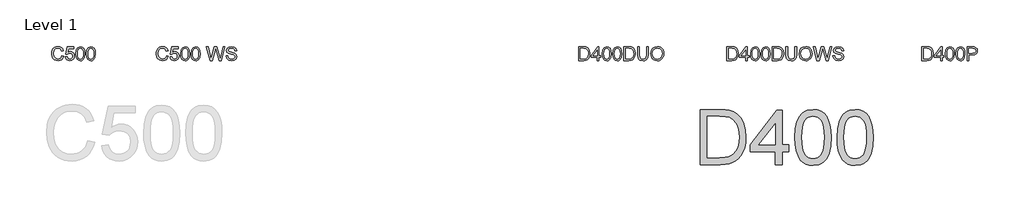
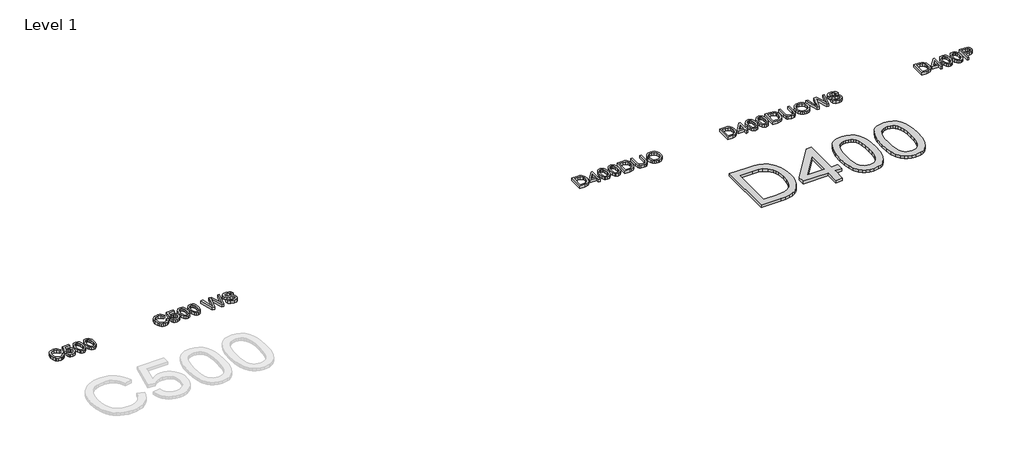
# One storey, part 5 of 5: 6 proxies.
"""IFC4 building model written with IfcOpenShell, lengths in millimetres."""

from ifc_helpers import new_model, si_unit, origin, origin_with_axes, place, context, project, spatial, polyline, outline, extrude, element, save

model = new_model("IFC4")

# Units and contexts
model_context = context("Model", 3, world=origin())
ifc_project = project(units=[si_unit("LENGTHUNIT", "METRE", prefix="MILLI")], contexts=[model_context])

# Site, building, storey
site = spatial("IfcSite", under=ifc_project)
building = spatial("IfcBuilding", under=site)
storey = spatial("IfcBuildingStorey", under=building, Name="Level 1", Elevation=0.0)

# Proxies
placement = place(None, origin())
element("IfcBuildingElementProxy", 1, Name="100mm Arial", ObjectType="100mm Arial", at=placement, inside=storey, context=model_context, shape_type="SweptSolid", body=[
    extrude(outline(polyline([(806.5429704, -3882.5422782), (819.1000091, -3885.7796398), (813.3058677, -3900.4121461), (804.2130511, -3911.1021838), (792.269149, -3917.6412862), (777.9217511, -3919.820987), (763.3566898, -3918.1716494), (751.7898668, -3913.2236366), (742.9239107, -3905.1486268), (736.4614503, -3894.1182983), (731.2007378, -3867.2629127), (732.6875942, -3852.6150779), (737.1481633, -3839.9660686), (744.3494534, -3829.7174894), (754.0584724, -3822.2709446), (765.5731788, -3817.7367991), (778.1915313, -3816.2254172), (791.9595149, -3818.1813231), (803.342397, -3824.049041), (811.9845582, -3833.46682), (817.5303793, -3846.0729097), (804.9733405, -3849.0650166), (794.6726447, -3833.6262356), (777.7010219, -3828.782456), (758.0561234, -3834.1535331), (746.9583499, -3848.5745073), (743.7577765, -3867.2383872), (747.5469611, -3888.8698485), (759.3437104, -3902.6899488), (776.6709524, -3907.2639483), (787.1525235, -3905.7065812), (795.8866552, -3901.0344798), (802.48094, -3893.2966952), (806.5429704, -3882.5422782)])), origin_with_axes(), (0.0, 0.0, 1.0), 20.0),
    extrude(outline(polyline([(831.6570479, -3891.5676498), (844.2140867, -3889.99802), (850.541657, -3902.9352035), (863.6627815, -3907.2639483), (872.6636276, -3905.7586978), (879.4081309, -3901.2429463), (883.6203797, -3894.23786), (885.0244627, -3885.264605), (879.7637501, -3870.3531214), (873.1572026, -3866.2512372), (863.8589852, -3864.8839424), (852.8347881, -3867.0667089), (845.7837165, -3872.7320917), (833.2266777, -3871.1624618), (844.2140867, -3819.3646769), (892.8726119, -3819.3646769), (892.8726119, -3831.9217157), (854.3676297, -3831.9217157), (848.9965526, -3859.5864417), (857.9667419, -3854.1417882), (867.3661269, -3852.3269037), (879.0984969, -3854.5771152), (888.8381727, -3861.3277498), (895.3956693, -3871.6161829), (897.5815014, -3884.47979), (895.6133328, -3897.0368288), (889.7088267, -3907.7789831), (878.4025868, -3916.810486), (863.6137306, -3919.820987), (851.2804867, -3917.8865409), (841.4549717, -3912.0832024), (834.7196655, -3903.0854219), (831.6570479, -3891.5676498)])), origin_with_axes(), (0.0, 0.0, 1.0), 20.0),
    extrude(outline(polyline([(908.5689104, -3868.8325425), (912.259993, -3839.9292804), (923.2228765, -3823.264226), (941.5311371, -3817.795047), (956.197366, -3821.0324086), (966.3263836, -3830.3643485), (972.2124955, -3845.2267811), (974.4933639, -3868.8325425), (970.8390694, -3897.6131773), (959.9129742, -3914.3150198), (951.6816145, -3918.4444952), (941.5311371, -3919.820987), (928.483589, -3917.4297541), (918.5753006, -3910.2560552), (911.0705079, -3893.2660384), (908.5689104, -3868.8325425)]), holes=[polyline([(921.1259491, -3868.808017), (922.5974771, -3888.5602145), (927.0120611, -3899.9921475), (933.584886, -3905.4459981), (941.5311371, -3907.2639483), (949.4773882, -3905.4398667), (956.0502132, -3899.967622), (960.4647971, -3888.5295577), (961.9363251, -3868.808017), (960.5138481, -3849.5003437), (956.2464169, -3837.9795058), (949.6858547, -3832.2589408), (941.3839843, -3830.3520858), (933.5235724, -3832.0320803), (927.2082648, -3837.0720636), (922.646528, -3849.3102713), (921.1259491, -3868.808017)])]), origin_with_axes(), (0.0, 0.0, 1.0), 20.0),
    extrude(outline(polyline([(985.4807728, -3868.8325425), (989.1718555, -3839.9292804), (1000.134739, -3823.264226), (1018.4429996, -3817.795047), (1033.1092285, -3821.0324086), (1043.2382461, -3830.3643485), (1049.124358, -3845.2267811), (1051.4052264, -3868.8325425), (1047.7509319, -3897.6131773), (1036.8248366, -3914.3150198), (1028.593477, -3918.4444952), (1018.4429996, -3919.820987), (1005.3954515, -3917.4297541), (995.4871631, -3910.2560552), (987.9823704, -3893.2660384), (985.4807728, -3868.8325425)]), holes=[polyline([(998.0378116, -3868.808017), (999.5093396, -3888.5602145), (1003.9239235, -3899.9921475), (1010.4967485, -3905.4459981), (1018.4429996, -3907.2639483), (1026.3892507, -3905.4398667), (1032.9620757, -3899.967622), (1037.3766596, -3888.5295577), (1038.8481876, -3868.808017), (1037.4257105, -3849.5003437), (1033.1582794, -3837.9795058), (1026.5977171, -3832.2589408), (1018.2958468, -3830.3520858), (1010.4354348, -3832.0320803), (1004.1201272, -3837.0720636), (999.5583905, -3849.3102713), (998.0378116, -3868.808017)])]), origin_with_axes(), (0.0, 0.0, 1.0), 20.0),
])
element("IfcBuildingElementProxy", 2, Name="100mm Arial", ObjectType="100mm Arial", at=placement, inside=storey, context=model_context, shape_type="SweptSolid", body=[
    extrude(outline(polyline([(4581.3010875, -3918.2513572), (4581.3010875, -3817.795047), (4615.9555714, -3817.795047), (4633.8836873, -3819.2420496), (4648.648018, -3826.4280112), (4660.5428692, -3843.5958376), (4664.4914693, -3867.4836419), (4661.8181935, -3887.7539398), (4654.9510629, -3902.3833805), (4645.7785385, -3911.4945912), (4633.7733227, -3916.5345745), (4617.6233031, -3918.2513572), (4581.3010875, -3918.2513572)]), holes=[polyline([(4593.8581262, -3905.6943184), (4616.0781987, -3905.6943184), (4632.2404811, -3903.8794339), (4641.5601583, -3898.7536114), (4649.199841, -3886.2824118), (4651.9344305, -3867.2874381), (4650.5947269, -3853.6022279), (4646.5756161, -3843.4977358), (4633.5403308, -3832.3631741), (4615.7348422, -3830.3520858), (4593.8581262, -3830.3520858), (4593.8581262, -3905.6943184)])]), origin_with_axes(), (0.0, 0.0, 1.0), 20.0),
    extrude(outline(polyline([(4717.8588841, -3918.2513572), (4717.8588841, -3894.7069095), (4672.3396185, -3894.7069095), (4672.3396185, -3882.1498707), (4720.9981438, -3819.3646769), (4730.4159228, -3819.3646769), (4730.4159228, -3882.1498707), (4742.9729616, -3882.1498707), (4742.9729616, -3894.7069095), (4730.4159228, -3894.7069095), (4730.4159228, -3918.2513572), (4717.8588841, -3918.2513572)]), holes=[polyline([(4717.8588841, -3882.1498707), (4717.8588841, -3843.350583), (4687.7906623, -3882.1498707), (4717.8588841, -3882.1498707)])]), origin_with_axes(), (0.0, 0.0, 1.0), 20.0),
    extrude(outline(polyline([(4753.9603705, -3868.8325425), (4757.6514532, -3839.9292804), (4768.6143367, -3823.264226), (4786.9225973, -3817.795047), (4801.5888262, -3821.0324086), (4811.7178438, -3830.3643485), (4817.6039557, -3845.2267811), (4819.8848241, -3868.8325425), (4816.2305296, -3897.6131773), (4805.3044343, -3914.3150198), (4797.0730747, -3918.4444952), (4786.9225973, -3919.820987), (4773.8750492, -3917.4297541), (4763.9667608, -3910.2560552), (4756.4619681, -3893.2660384), (4753.9603705, -3868.8325425)]), holes=[polyline([(4766.5174093, -3868.808017), (4767.9889373, -3888.5602145), (4772.4035212, -3899.9921475), (4778.9763462, -3905.4459981), (4786.9225973, -3907.2639483), (4794.8688484, -3905.4398667), (4801.4416734, -3899.967622), (4805.8562573, -3888.5295577), (4807.3277853, -3868.808017), (4805.9053082, -3849.5003437), (4801.6378771, -3837.9795058), (4795.0773149, -3832.2589408), (4786.7754445, -3830.3520858), (4778.9150325, -3832.0320803), (4772.5997249, -3837.0720636), (4768.0379882, -3849.3102713), (4766.5174093, -3868.808017)])]), origin_with_axes(), (0.0, 0.0, 1.0), 20.0),
    extrude(outline(polyline([(4830.872233, -3868.8325425), (4834.5633157, -3839.9292804), (4845.5261991, -3823.264226), (4863.8344597, -3817.795047), (4878.5006886, -3821.0324086), (4888.6297062, -3830.3643485), (4894.5158181, -3845.2267811), (4896.7966865, -3868.8325425), (4893.142392, -3897.6131773), (4882.2162968, -3914.3150198), (4873.9849371, -3918.4444952), (4863.8344597, -3919.820987), (4850.7869117, -3917.4297541), (4840.8786232, -3910.2560552), (4833.3738305, -3893.2660384), (4830.872233, -3868.8325425)]), holes=[polyline([(4843.4292717, -3868.808017), (4844.9007997, -3888.5602145), (4849.3153837, -3899.9921475), (4855.8882087, -3905.4459981), (4863.8344597, -3907.2639483), (4871.7807108, -3905.4398667), (4878.3535358, -3899.967622), (4882.7681198, -3888.5295577), (4884.2396477, -3868.808017), (4882.8171707, -3849.5003437), (4878.5497396, -3837.9795058), (4871.9891773, -3832.2589408), (4863.687307, -3830.3520858), (4855.826895, -3832.0320803), (4849.5115874, -3837.0720636), (4844.9498507, -3849.3102713), (4843.4292717, -3868.808017)])]), origin_with_axes(), (0.0, 0.0, 1.0), 20.0),
    extrude(outline(polyline([(4912.492985, -3918.2513572), (4912.492985, -3817.795047), (4947.1474689, -3817.795047), (4965.0755848, -3819.2420496), (4979.8399156, -3826.4280112), (4991.7347667, -3843.5958376), (4995.6833668, -3867.4836419), (4993.010091, -3887.7539398), (4986.1429604, -3902.3833805), (4976.970436, -3911.4945912), (4964.9652202, -3916.5345745), (4948.8152006, -3918.2513572), (4912.492985, -3918.2513572)]), holes=[polyline([(4925.0500237, -3905.6943184), (4947.2700963, -3905.6943184), (4963.4323786, -3903.8794339), (4972.7520558, -3898.7536114), (4980.3917386, -3886.2824118), (4983.1263281, -3867.2874381), (4981.7866245, -3853.6022279), (4977.7675137, -3843.4977358), (4964.7322283, -3832.3631741), (4946.9267397, -3830.3520858), (4925.0500237, -3830.3520858), (4925.0500237, -3905.6943184)])]), origin_with_axes(), (0.0, 0.0, 1.0), 20.0),
    extrude(outline(polyline([(5078.8737487, -3817.795047), (5091.4307874, -3817.795047), (5091.4307874, -3875.748724), (5088.0217476, -3899.7714183), (5075.734489, -3914.2414434), (5065.4705813, -3918.4261011), (5052.4352959, -3919.820987), (5029.4917222, -3914.9649447), (5021.8520394, -3909.0205848), (5016.7630051, -3900.8995898), (5012.9492951, -3875.748724), (5012.9492951, -3817.795047), (5025.5063339, -3817.795047), (5025.5063339, -3875.3072656), (5027.983406, -3894.4493921), (5036.4937428, -3903.9284848), (5051.2580736, -3907.2639483), (5064.0297102, -3905.6146107), (5072.5216529, -3900.6665978), (5077.2857247, -3891.0280895), (5078.8737487, -3875.3072656), (5078.8737487, -3817.795047)])), origin_with_axes(), (0.0, 0.0, 1.0), 20.0),
    extrude(outline(polyline([(5108.6967157, -3869.3475773), (5112.0444419, -3847.1336362), (5122.0876204, -3830.3275603), (5137.4221682, -3819.750953), (5156.6440024, -3816.2254172), (5169.8203092, -3817.8808862), (5181.6354526, -3822.8472931), (5191.4456392, -3830.7751501), (5198.6070754, -3841.3149693), (5202.9848711, -3853.9578472), (5204.4441363, -3868.1948804), (5202.908229, -3882.621986), (5198.300507, -3895.4426735), (5190.8754221, -3906.0008868), (5180.8874259, -3913.6405695), (5169.1734501, -3918.2758827), (5156.570426, -3919.820987), (5143.1917842, -3918.1134014), (5131.3091957, -3912.9906447), (5121.5235346, -3904.9156349), (5114.4356749, -3894.3512902), (5108.6967157, -3869.3475773)]), holes=[polyline([(5121.2537545, -3869.4702046), (5123.7645491, -3885.1848972), (5131.296933, -3897.1594561), (5142.6185014, -3904.7378252), (5156.4968496, -3907.2639483), (5170.577533, -3904.7132998), (5181.9174955, -3897.0613543), (5189.3946971, -3884.7189133), (5191.8870976, -3868.0967785), (5187.6196664, -3847.3727595), (5175.1484668, -3833.650761), (5156.7175788, -3828.782456), (5143.2101783, -3831.1277037), (5131.7261286, -3838.1634468), (5123.871848, -3850.6806317), (5121.2537545, -3869.4702046)])]), origin_with_axes(), (0.0, 0.0, 1.0), 20.0),
])
element("IfcBuildingElementProxy", 3, Name="100mm Arial", ObjectType="100mm Arial", at=placement, inside=storey, context=model_context, shape_type="SweptSolid", body=[
    extrude(outline(polyline([(5665.1484788, -3918.2513572), (5665.1484788, -3817.795047), (5699.8029628, -3817.795047), (5717.7310787, -3819.2420496), (5732.4954094, -3826.4280112), (5744.3902606, -3843.5958376), (5748.3388607, -3867.4836419), (5745.6655849, -3887.7539398), (5738.7984543, -3902.3833805), (5729.6259299, -3911.4945912), (5717.6207141, -3916.5345745), (5701.4706945, -3918.2513572), (5665.1484788, -3918.2513572)]), holes=[polyline([(5677.7055176, -3905.6943184), (5699.9255901, -3905.6943184), (5716.0878724, -3903.8794339), (5725.4075497, -3898.7536114), (5733.0472324, -3886.2824118), (5735.7818219, -3867.2874381), (5734.4421183, -3853.6022279), (5730.4230075, -3843.4977358), (5717.3877222, -3832.3631741), (5699.5822336, -3830.3520858), (5677.7055176, -3830.3520858), (5677.7055176, -3905.6943184)])]), origin_with_axes(), (0.0, 0.0, 1.0), 20.0),
    extrude(outline(polyline([(5801.7062755, -3918.2513572), (5801.7062755, -3894.7069095), (5756.1870099, -3894.7069095), (5756.1870099, -3882.1498707), (5804.8455351, -3819.3646769), (5814.2633142, -3819.3646769), (5814.2633142, -3882.1498707), (5826.820353, -3882.1498707), (5826.820353, -3894.7069095), (5814.2633142, -3894.7069095), (5814.2633142, -3918.2513572), (5801.7062755, -3918.2513572)]), holes=[polyline([(5801.7062755, -3882.1498707), (5801.7062755, -3843.350583), (5771.6380537, -3882.1498707), (5801.7062755, -3882.1498707)])]), origin_with_axes(), (0.0, 0.0, 1.0), 20.0),
    extrude(outline(polyline([(5837.8077619, -3868.8325425), (5841.4988446, -3839.9292804), (5852.4617281, -3823.264226), (5870.7699887, -3817.795047), (5885.4362176, -3821.0324086), (5895.5652352, -3830.3643485), (5901.4513471, -3845.2267811), (5903.7322154, -3868.8325425), (5900.077921, -3897.6131773), (5889.1518257, -3914.3150198), (5880.9204661, -3918.4444952), (5870.7699887, -3919.820987), (5857.7224406, -3917.4297541), (5847.8141522, -3910.2560552), (5840.3093595, -3893.2660384), (5837.8077619, -3868.8325425)]), holes=[polyline([(5850.3648007, -3868.808017), (5851.8363287, -3888.5602145), (5856.2509126, -3899.9921475), (5862.8237376, -3905.4459981), (5870.7699887, -3907.2639483), (5878.7162398, -3905.4398667), (5885.2890648, -3899.967622), (5889.7036487, -3888.5295577), (5891.1751767, -3868.808017), (5889.7526996, -3849.5003437), (5885.4852685, -3837.9795058), (5878.9247062, -3832.2589408), (5870.6228359, -3830.3520858), (5862.7624239, -3832.0320803), (5856.4471163, -3837.0720636), (5851.8853796, -3849.3102713), (5850.3648007, -3868.808017)])]), origin_with_axes(), (0.0, 0.0, 1.0), 20.0),
    extrude(outline(polyline([(5914.7196244, -3868.8325425), (5918.4107071, -3839.9292804), (5929.3735905, -3823.264226), (5947.6818511, -3817.795047), (5962.34808, -3821.0324086), (5972.4770976, -3830.3643485), (5978.3632095, -3845.2267811), (5980.6440779, -3868.8325425), (5976.9897834, -3897.6131773), (5966.0636882, -3914.3150198), (5957.8323285, -3918.4444952), (5947.6818511, -3919.820987), (5934.634303, -3917.4297541), (5924.7260146, -3910.2560552), (5917.2212219, -3893.2660384), (5914.7196244, -3868.8325425)]), holes=[polyline([(5927.2766631, -3868.808017), (5928.7481911, -3888.5602145), (5933.1627751, -3899.9921475), (5939.7356, -3905.4459981), (5947.6818511, -3907.2639483), (5955.6281022, -3905.4398667), (5962.2009272, -3899.967622), (5966.6155112, -3888.5295577), (5968.0870391, -3868.808017), (5966.6645621, -3849.5003437), (5962.3971309, -3837.9795058), (5955.8365687, -3832.2589408), (5947.5346983, -3830.3520858), (5939.6742864, -3832.0320803), (5933.3589788, -3837.0720636), (5928.7972421, -3849.3102713), (5927.2766631, -3868.808017)])]), origin_with_axes(), (0.0, 0.0, 1.0), 20.0),
    extrude(outline(polyline([(5996.3403764, -3918.2513572), (5996.3403764, -3817.795047), (6030.9948603, -3817.795047), (6048.9229762, -3819.2420496), (6063.687307, -3826.4280112), (6075.5821581, -3843.5958376), (6079.5307582, -3867.4836419), (6076.8574824, -3887.7539398), (6069.9903518, -3902.3833805), (6060.8178274, -3911.4945912), (6048.8126116, -3916.5345745), (6032.662592, -3918.2513572), (5996.3403764, -3918.2513572)]), holes=[polyline([(6008.8974151, -3905.6943184), (6031.1174876, -3905.6943184), (6047.27977, -3903.8794339), (6056.5994472, -3898.7536114), (6064.2391299, -3886.2824118), (6066.9737194, -3867.2874381), (6065.6340158, -3853.6022279), (6061.614905, -3843.4977358), (6048.5796197, -3832.3631741), (6030.7741311, -3830.3520858), (6008.8974151, -3830.3520858), (6008.8974151, -3905.6943184)])]), origin_with_axes(), (0.0, 0.0, 1.0), 20.0),
    extrude(outline(polyline([(6162.7211401, -3817.795047), (6175.2781788, -3817.795047), (6175.2781788, -3875.748724), (6171.869139, -3899.7714183), (6159.5818804, -3914.2414434), (6149.3179727, -3918.4261011), (6136.2826873, -3919.820987), (6113.3391136, -3914.9649447), (6105.6994308, -3909.0205848), (6100.6103965, -3900.8995898), (6096.7966865, -3875.748724), (6096.7966865, -3817.795047), (6109.3537253, -3817.795047), (6109.3537253, -3875.3072656), (6111.8307974, -3894.4493921), (6120.3411342, -3903.9284848), (6135.1054649, -3907.2639483), (6147.8771015, -3905.6146107), (6156.3690443, -3900.6665978), (6161.1331161, -3891.0280895), (6162.7211401, -3875.3072656), (6162.7211401, -3817.795047)])), origin_with_axes(), (0.0, 0.0, 1.0), 20.0),
    extrude(outline(polyline([(6192.5441071, -3869.3475773), (6195.8918333, -3847.1336362), (6205.9350118, -3830.3275603), (6221.2695596, -3819.750953), (6240.4913938, -3816.2254172), (6253.6677006, -3817.8808862), (6265.482844, -3822.8472931), (6275.2930306, -3830.7751501), (6282.4544667, -3841.3149693), (6286.8322625, -3853.9578472), (6288.2915277, -3868.1948804), (6286.7556204, -3882.621986), (6282.1478984, -3895.4426735), (6274.7228135, -3906.0008868), (6264.7348173, -3913.6405695), (6253.0208415, -3918.2758827), (6240.4178174, -3919.820987), (6227.0391755, -3918.1134014), (6215.1565871, -3912.9906447), (6205.370926, -3904.9156349), (6198.2830663, -3894.3512902), (6192.5441071, -3869.3475773)]), holes=[polyline([(6205.1011459, -3869.4702046), (6207.6119405, -3885.1848972), (6215.1443244, -3897.1594561), (6226.4658928, -3904.7378252), (6240.344241, -3907.2639483), (6254.4249244, -3904.7132998), (6265.7648869, -3897.0613543), (6273.2420885, -3884.7189133), (6275.734489, -3868.0967785), (6271.4670578, -3847.3727595), (6258.9958582, -3833.650761), (6240.5649702, -3828.782456), (6227.0575696, -3831.1277037), (6215.57352, -3838.1634468), (6207.7192394, -3850.6806317), (6205.1011459, -3869.4702046)])]), origin_with_axes(), (0.0, 0.0, 1.0), 20.0),
    extrude(outline(polyline([(6323.5346229, -3918.2513572), (6296.139677, -3817.795047), (6309.0891232, -3817.795047), (6324.9816254, -3883.8176024), (6329.8867187, -3904.198265), (6335.1351685, -3886.1720472), (6355.0498471, -3817.795047), (6373.713727, -3817.795047), (6388.1837522, -3867.3610145), (6398.9504319, -3904.198265), (6403.7083724, -3884.4062136), (6419.7480273, -3817.795047), (6432.6974736, -3817.795047), (6405.2780022, -3918.2513572), (6391.8625721, -3918.2513572), (6367.7785642, -3840.7508835), (6364.4185753, -3829.9351529), (6360.6416535, -3842.9581755), (6338.6913611, -3918.2513572), (6323.5346229, -3918.2513572)])), origin_with_axes(), (0.0, 0.0, 1.0), 20.0),
    extrude(outline(polyline([(6440.5456228, -3883.7195006), (6453.1026616, -3883.7195006), (6457.1493635, -3896.2888021), (6467.0331265, -3904.2350532), (6482.0917628, -3907.2639483), (6495.2128873, -3904.9708172), (6503.6864359, -3898.6677723), (6506.4700763, -3890.2432746), (6504.3854117, -3882.4073881), (6495.8505494, -3876.7052172), (6477.5668143, -3871.9104885), (6457.8851275, -3865.7178083), (6447.2042869, -3856.3736056), (6443.6848825, -3843.8901432), (6448.0381528, -3829.6776355), (6460.7546071, -3819.6467198), (6479.369436, -3816.2254172), (6499.2350638, -3819.8061353), (6512.4788156, -3830.3275603), (6517.4574853, -3846.0483843), (6504.9004465, -3846.0483843), (6502.5950527, -3838.5558543), (6497.7880613, -3833.147989), (6479.8599454, -3828.782456), (6461.8827785, -3833.098938), (6456.2419213, -3843.5222612), (6460.2395723, -3852.2288018), (6480.7428621, -3859.2430852), (6502.9629347, -3865.54613), (6515.1153032, -3875.7241985), (6519.0271151, -3889.9244436), (6514.526692, -3904.9462917), (6501.5772458, -3915.9091752), (6482.5822721, -3919.820987), (6460.1537332, -3915.6026068), (6445.9657509, -3902.8984153), (6440.5456228, -3883.7195006)])), origin_with_axes(), (0.0, 0.0, 1.0), 20.0),
])
element("IfcBuildingElementProxy", 4, Name="100mm Arial", ObjectType="100mm Arial", at=placement, inside=storey, context=model_context, shape_type="SweptSolid", body=[
    extrude(outline(polyline([(7089.6055468, -3918.2513572), (7089.6055468, -3817.795047), (7124.2600308, -3817.795047), (7142.1881467, -3819.2420496), (7156.9524774, -3826.4280112), (7168.8473286, -3843.5958376), (7172.7959287, -3867.4836419), (7170.1226528, -3887.7539398), (7163.2555223, -3902.3833805), (7154.0829979, -3911.4945912), (7142.0777821, -3916.5345745), (7125.9277625, -3918.2513572), (7089.6055468, -3918.2513572)]), holes=[polyline([(7102.1625856, -3905.6943184), (7124.3826581, -3905.6943184), (7140.5449404, -3903.8794339), (7149.8646176, -3898.7536114), (7157.5043004, -3886.2824118), (7160.2388899, -3867.2874381), (7158.8991863, -3853.6022279), (7154.8800755, -3843.4977358), (7141.8447901, -3832.3631741), (7124.0393016, -3830.3520858), (7102.1625856, -3830.3520858), (7102.1625856, -3905.6943184)])]), origin_with_axes(), (0.0, 0.0, 1.0), 20.0),
    extrude(outline(polyline([(7226.1633434, -3918.2513572), (7226.1633434, -3894.7069095), (7180.6440779, -3894.7069095), (7180.6440779, -3882.1498707), (7229.3026031, -3819.3646769), (7238.7203822, -3819.3646769), (7238.7203822, -3882.1498707), (7251.277421, -3882.1498707), (7251.277421, -3894.7069095), (7238.7203822, -3894.7069095), (7238.7203822, -3918.2513572), (7226.1633434, -3918.2513572)]), holes=[polyline([(7226.1633434, -3882.1498707), (7226.1633434, -3843.350583), (7196.0951217, -3882.1498707), (7226.1633434, -3882.1498707)])]), origin_with_axes(), (0.0, 0.0, 1.0), 20.0),
    extrude(outline(polyline([(7262.2648299, -3868.8325425), (7265.9559126, -3839.9292804), (7276.918796, -3823.264226), (7295.2270567, -3817.795047), (7309.8932855, -3821.0324086), (7320.0223031, -3830.3643485), (7325.9084151, -3845.2267811), (7328.1892834, -3868.8325425), (7324.534989, -3897.6131773), (7313.6088937, -3914.3150198), (7305.3775341, -3918.4444952), (7295.2270567, -3919.820987), (7282.1795086, -3917.4297541), (7272.2712202, -3910.2560552), (7264.7664275, -3893.2660384), (7262.2648299, -3868.8325425)]), holes=[polyline([(7274.8218687, -3868.808017), (7276.2933967, -3888.5602145), (7280.7079806, -3899.9921475), (7287.2808056, -3905.4459981), (7295.2270567, -3907.2639483), (7303.1733078, -3905.4398667), (7309.7461327, -3899.967622), (7314.1607167, -3888.5295577), (7315.6322447, -3868.808017), (7314.2097676, -3849.5003437), (7309.9423365, -3837.9795058), (7303.3817742, -3832.2589408), (7295.0799039, -3830.3520858), (7287.2194919, -3832.0320803), (7280.9041843, -3837.0720636), (7276.3424476, -3849.3102713), (7274.8218687, -3868.808017)])]), origin_with_axes(), (0.0, 0.0, 1.0), 20.0),
    extrude(outline(polyline([(7339.1766924, -3868.8325425), (7342.867775, -3839.9292804), (7353.8306585, -3823.264226), (7372.1389191, -3817.795047), (7386.805148, -3821.0324086), (7396.9341656, -3830.3643485), (7402.8202775, -3845.2267811), (7405.1011459, -3868.8325425), (7401.4468514, -3897.6131773), (7390.5207562, -3914.3150198), (7382.2893965, -3918.4444952), (7372.1389191, -3919.820987), (7359.091371, -3917.4297541), (7349.1830826, -3910.2560552), (7341.6782899, -3893.2660384), (7339.1766924, -3868.8325425)]), holes=[polyline([(7351.7337311, -3868.808017), (7353.2052591, -3888.5602145), (7357.6198431, -3899.9921475), (7364.192668, -3905.4459981), (7372.1389191, -3907.2639483), (7380.0851702, -3905.4398667), (7386.6579952, -3899.967622), (7391.0725791, -3888.5295577), (7392.5441071, -3868.808017), (7391.1216301, -3849.5003437), (7386.8541989, -3837.9795058), (7380.2936367, -3832.2589408), (7371.9917663, -3830.3520858), (7364.1313544, -3832.0320803), (7357.8160468, -3837.0720636), (7353.25431, -3849.3102713), (7351.7337311, -3868.808017)])]), origin_with_axes(), (0.0, 0.0, 1.0), 20.0),
    extrude(outline(polyline([(7420.7974444, -3918.2513572), (7420.7974444, -3817.795047), (7458.0271023, -3817.795047), (7473.0366877, -3818.7515402), (7485.2381072, -3823.448167), (7493.1475701, -3833.1602517), (7496.139677, -3846.8577247), (7494.1193917, -3858.6973935), (7488.0585358, -3868.5627624), (7476.7247047, -3875.2214265), (7458.8854936, -3877.4409812), (7433.3544831, -3877.4409812), (7433.3544831, -3918.2513572), (7420.7974444, -3918.2513572)]), holes=[polyline([(7433.3544831, -3864.8839424), (7459.6212576, -3864.8839424), (7478.1134592, -3860.2731548), (7482.2153435, -3854.724268), (7483.5826382, -3847.2991831), (7480.3575394, -3836.9003853), (7471.8839908, -3831.2104771), (7459.326952, -3830.3520858), (7433.3544831, -3830.3520858), (7433.3544831, -3864.8839424)])]), origin_with_axes(), (0.0, 0.0, 1.0), 20.0),
])
element("IfcBuildingElementProxy", 5, Name="100mm Arial", ObjectType="100mm Arial", at=placement, inside=storey, context=model_context, shape_type="SweptSolid", body=[
    extrude(outline(polyline([(1570.7699887, -3882.5422782), (1583.3270274, -3885.7796398), (1577.532886, -3900.4121461), (1568.4400694, -3911.1021838), (1556.4961673, -3917.6412862), (1542.1487695, -3919.820987), (1527.5837081, -3918.1716494), (1516.0168851, -3913.2236366), (1507.150929, -3905.1486268), (1500.6884686, -3894.1182983), (1495.4277561, -3867.2629127), (1496.9146125, -3852.6150779), (1501.3751817, -3839.9660686), (1508.5764717, -3829.7174894), (1518.2854907, -3822.2709446), (1529.8001972, -3817.7367991), (1542.4185496, -3816.2254172), (1556.1865333, -3818.1813231), (1567.5694153, -3824.049041), (1576.2115765, -3833.46682), (1581.7573976, -3846.0729097), (1569.2003588, -3849.0650166), (1558.899663, -3833.6262356), (1541.9280403, -3828.782456), (1522.2831417, -3834.1535331), (1511.1853682, -3848.5745073), (1507.9847948, -3867.2383872), (1511.7739794, -3888.8698485), (1523.5707287, -3902.6899488), (1540.8979707, -3907.2639483), (1551.3795419, -3905.7065812), (1560.1136736, -3901.0344798), (1566.7079583, -3893.2966952), (1570.7699887, -3882.5422782)])), origin_with_axes(), (0.0, 0.0, 1.0), 20.0),
    extrude(outline(polyline([(1595.8840662, -3891.5676498), (1608.441105, -3889.99802), (1614.7686753, -3902.9352035), (1627.8897998, -3907.2639483), (1636.8906459, -3905.7586978), (1643.6351492, -3901.2429463), (1647.847398, -3894.23786), (1649.251481, -3885.264605), (1643.9907685, -3870.3531214), (1637.384221, -3866.2512372), (1628.0860035, -3864.8839424), (1617.0618064, -3867.0667089), (1610.0107348, -3872.7320917), (1597.4536961, -3871.1624618), (1608.441105, -3819.3646769), (1657.0996302, -3819.3646769), (1657.0996302, -3831.9217157), (1618.5946481, -3831.9217157), (1613.2235709, -3859.5864417), (1622.1937602, -3854.1417882), (1631.5931452, -3852.3269037), (1643.3255152, -3854.5771152), (1653.065191, -3861.3277498), (1659.6226876, -3871.6161829), (1661.8085198, -3884.47979), (1659.8403511, -3897.0368288), (1653.9358451, -3907.7789831), (1642.6296051, -3916.810486), (1627.8407489, -3919.820987), (1615.507505, -3917.8865409), (1605.68199, -3912.0832024), (1598.9466838, -3903.0854219), (1595.8840662, -3891.5676498)])), origin_with_axes(), (0.0, 0.0, 1.0), 20.0),
    extrude(outline(polyline([(1672.7959287, -3868.8325425), (1676.4870114, -3839.9292804), (1687.4498948, -3823.264226), (1705.7581554, -3817.795047), (1720.4243843, -3821.0324086), (1730.5534019, -3830.3643485), (1736.4395138, -3845.2267811), (1738.7203822, -3868.8325425), (1735.0660877, -3897.6131773), (1724.1399925, -3914.3150198), (1715.9086328, -3918.4444952), (1705.7581554, -3919.820987), (1692.7106073, -3917.4297541), (1682.8023189, -3910.2560552), (1675.2975262, -3893.2660384), (1672.7959287, -3868.8325425)]), holes=[polyline([(1685.3529674, -3868.808017), (1686.8244954, -3888.5602145), (1691.2390794, -3899.9921475), (1697.8119043, -3905.4459981), (1705.7581554, -3907.2639483), (1713.7044065, -3905.4398667), (1720.2772315, -3899.967622), (1724.6918155, -3888.5295577), (1726.1633434, -3868.808017), (1724.7408664, -3849.5003437), (1720.4734353, -3837.9795058), (1713.912873, -3832.2589408), (1705.6110026, -3830.3520858), (1697.7505907, -3832.0320803), (1691.4352831, -3837.0720636), (1686.8735464, -3849.3102713), (1685.3529674, -3868.808017)])]), origin_with_axes(), (0.0, 0.0, 1.0), 20.0),
    extrude(outline(polyline([(1749.7077911, -3868.8325425), (1753.3988738, -3839.9292804), (1764.3617573, -3823.264226), (1782.6700179, -3817.795047), (1797.3362468, -3821.0324086), (1807.4652644, -3830.3643485), (1813.3513763, -3845.2267811), (1815.6322447, -3868.8325425), (1811.9779502, -3897.6131773), (1801.0518549, -3914.3150198), (1792.8204953, -3918.4444952), (1782.6700179, -3919.820987), (1769.6224698, -3917.4297541), (1759.7141814, -3910.2560552), (1752.2093887, -3893.2660384), (1749.7077911, -3868.8325425)]), holes=[polyline([(1762.2648299, -3868.808017), (1763.7363579, -3888.5602145), (1768.1509418, -3899.9921475), (1774.7237668, -3905.4459981), (1782.6700179, -3907.2639483), (1790.616269, -3905.4398667), (1797.189094, -3899.967622), (1801.6036779, -3888.5295577), (1803.0752059, -3868.808017), (1801.6527289, -3849.5003437), (1797.3852977, -3837.9795058), (1790.8247355, -3832.2589408), (1782.5228651, -3830.3520858), (1774.6624531, -3832.0320803), (1768.3471456, -3837.0720636), (1763.7854088, -3849.3102713), (1762.2648299, -3868.808017)])]), origin_with_axes(), (0.0, 0.0, 1.0), 20.0),
    extrude(outline(polyline([(1888.5464561, -3918.2513572), (1861.1515102, -3817.795047), (1874.1009564, -3817.795047), (1889.9934586, -3883.8176024), (1894.8985519, -3904.198265), (1900.1470017, -3886.1720472), (1920.0616804, -3817.795047), (1938.7255603, -3817.795047), (1953.1955854, -3867.3610145), (1963.9622651, -3904.198265), (1968.7202056, -3884.4062136), (1984.7598606, -3817.795047), (1997.7093068, -3817.795047), (1970.2898354, -3918.2513572), (1956.8744054, -3918.2513572), (1932.7903974, -3840.7508835), (1929.4304085, -3829.9351529), (1925.6534867, -3842.9581755), (1903.7031943, -3918.2513572), (1888.5464561, -3918.2513572)])), origin_with_axes(), (0.0, 0.0, 1.0), 20.0),
    extrude(outline(polyline([(2005.557456, -3883.7195006), (2018.1144948, -3883.7195006), (2022.1611968, -3896.2888021), (2032.0449597, -3904.2350532), (2047.103596, -3907.2639483), (2060.2247205, -3904.9708172), (2068.6982692, -3898.6677723), (2071.4819096, -3890.2432746), (2069.3972449, -3882.4073881), (2060.8623827, -3876.7052172), (2042.5786475, -3871.9104885), (2022.8969608, -3865.7178083), (2012.2161202, -3856.3736056), (2008.6967157, -3843.8901432), (2013.049986, -3829.6776355), (2025.7664403, -3819.6467198), (2044.3812693, -3816.2254172), (2064.246897, -3819.8061353), (2077.4906488, -3830.3275603), (2082.4693185, -3846.0483843), (2069.9122797, -3846.0483843), (2067.6068859, -3838.5558543), (2062.7998945, -3833.147989), (2044.8717786, -3828.782456), (2026.8946118, -3833.098938), (2021.2537545, -3843.5222612), (2025.2514055, -3852.2288018), (2045.7546954, -3859.2430852), (2067.9747679, -3865.54613), (2080.1271365, -3875.7241985), (2084.0389484, -3889.9244436), (2079.5385253, -3904.9462917), (2066.589079, -3915.9091752), (2047.5941054, -3919.820987), (2025.1655664, -3915.6026068), (2010.9775841, -3902.8984153), (2005.557456, -3883.7195006)])), origin_with_axes(), (0.0, 0.0, 1.0), 20.0),
])
element("IfcBuildingElementProxy", 6, Name="400mm Arial", ObjectType="400mm Arial", at=placement, inside=storey, context=model_context, shape_type="SweptSolid", body=[
    extrude(outline(polyline([(5472.0840078, -4678.2513572), (5472.0840078, -4276.4261166), (5610.7019436, -4276.4261166), (5652.1254562, -4277.8731191), (5682.4144071, -4282.2141267), (5714.4446662, -4293.3732138), (5741.4717301, -4310.9579732), (5769.2590835, -4341.5657552), (5789.0511348, -4379.629279), (5800.8969351, -4424.4127805), (5804.8455351, -4475.1804959), (5802.1722593, -4518.3085284), (5794.1524318, -4556.2616876), (5781.9387496, -4588.5739895), (5766.6839095, -4614.7794503), (5749.1236756, -4635.4666812), (5729.9938119, -4651.2242933), (5708.0312567, -4662.910678), (5681.9729488, -4671.3842266), (5651.769837, -4676.5345745), (5617.3728704, -4678.2513572), (5472.0840078, -4678.2513572)]), holes=[polyline([(5522.3121628, -4628.0232021), (5611.1924529, -4628.0232021), (5647.9561269, -4626.2083176), (5675.8415822, -4620.7636641), (5696.8844323, -4612.0080726), (5713.120291, -4600.2603742), (5730.5701603, -4578.5185483), (5743.6790221, -4550.3755757), (5751.8827906, -4515.708829), (5754.6173801, -4474.3956809), (5749.2585657, -4419.65484), (5742.5600477, -4397.6554967), (5733.1821225, -4379.2368715), (5709.4292083, -4351.4740436), (5681.040981, -4334.6986246), (5652.1499817, -4328.6653599), (5609.8190268, -4326.6542717), (5522.3121628, -4326.6542717), (5522.3121628, -4628.0232021)])]), origin_with_axes(), (0.0, 0.0, 1.0), 20.0),
    extrude(outline(polyline([(6018.3151942, -4678.2513572), (6018.3151942, -4584.0735664), (5836.2381321, -4584.0735664), (5836.2381321, -4533.8454114), (6030.872233, -4282.704636), (6068.5433493, -4282.704636), (6068.5433493, -4533.8454114), (6118.7715044, -4533.8454114), (6118.7715044, -4584.0735664), (6068.5433493, -4584.0735664), (6068.5433493, -4678.2513572), (6018.3151942, -4678.2513572)]), holes=[polyline([(6018.3151942, -4533.8454114), (6018.3151942, -4378.6482603), (5898.0423073, -4533.8454114), (6018.3151942, -4533.8454114)])]), origin_with_axes(), (0.0, 0.0, 1.0), 20.0),
    extrude(outline(polyline([(6162.7211401, -4480.5760984), (6166.4122227, -4416.258063), (6177.4854708, -4364.9630501), (6195.8305196, -4325.9062449), (6207.6885826, -4310.6728647), (6221.3370046, -4298.3028326), (6236.8217709, -4288.7317693), (6254.1888668, -4281.8952956), (6294.5700471, -4276.4261166), (6325.5211857, -4279.6634782), (6353.2349626, -4289.3755628), (6376.4115283, -4305.1822259), (6393.751033, -4326.7033226), (6406.8476321, -4353.754912), (6417.2954807, -4386.153053), (6424.1380858, -4427.2945228), (6426.4189542, -4480.5760984), (6422.7646597, -4544.5262519), (6411.8017763, -4595.6986375), (6393.567092, -4634.7922308), (6381.7366202, -4650.0715964), (6368.0973952, -4662.5060078), (6352.5942348, -4672.1414504), (6335.1719567, -4679.0239094), (6294.5700471, -4684.5298766), (6266.9053211, -4682.1386436), (6242.3798547, -4674.9649447), (6220.9936481, -4663.0087799), (6202.7467011, -4646.2701491), (6185.2355182, -4616.011855), (6172.7275303, -4578.3100818), (6165.2227376, -4533.1648297), (6162.7211401, -4480.5760984)]), holes=[polyline([(6212.9492951, -4480.4779966), (6214.4208231, -4524.1425237), (6218.835407, -4559.4867864), (6226.193047, -4586.5107846), (6236.4937428, -4605.2145184), (6248.9526797, -4617.9401698), (6262.7850427, -4627.0299207), (6277.9908319, -4632.4837713), (6294.5700471, -4634.3017215), (6311.1492624, -4632.4776399), (6326.3550515, -4627.0053953), (6340.1874145, -4617.8849875), (6352.6463514, -4605.1164166), (6362.9470473, -4586.3820259), (6370.3046872, -4559.3641591), (6374.7192711, -4524.062816), (6376.1907991, -4480.4779966), (6374.7683221, -4437.969232), (6370.5008909, -4403.2473031), (6363.3885057, -4376.3122097), (6353.4311664, -4357.1639518), (6341.1806959, -4343.8159667), (6327.1889174, -4334.2816917), (6311.4558307, -4328.5611267), (6293.9814359, -4326.6542717), (6277.4880598, -4328.3342661), (6262.5397881, -4333.3742494), (6249.1366207, -4341.7742217), (6237.2785577, -4353.5341828), (6226.6345053, -4374.3808292), (6219.0316108, -4402.4870136), (6214.469874, -4437.8527361), (6212.9492951, -4480.4779966)])]), origin_with_axes(), (0.0, 0.0, 1.0), 20.0),
    extrude(outline(polyline([(6470.3685899, -4480.5760984), (6474.0596726, -4416.258063), (6485.1329206, -4364.9630501), (6503.4779695, -4325.9062449), (6515.3360324, -4310.6728647), (6528.9844545, -4298.3028326), (6544.4692208, -4288.7317693), (6561.8363166, -4281.8952956), (6602.217497, -4276.4261166), (6633.1686355, -4279.6634782), (6660.8824125, -4289.3755628), (6684.0589782, -4305.1822259), (6701.3984829, -4326.7033226), (6714.4950819, -4353.754912), (6724.9429305, -4386.153053), (6731.7855357, -4427.2945228), (6734.066404, -4480.5760984), (6730.4121095, -4544.5262519), (6719.4492261, -4595.6986375), (6701.2145419, -4634.7922308), (6689.38407, -4650.0715964), (6675.7448451, -4662.5060078), (6660.2416846, -4672.1414504), (6642.8194065, -4679.0239094), (6602.217497, -4684.5298766), (6574.5527709, -4682.1386436), (6550.0273046, -4674.9649447), (6528.6410979, -4663.0087799), (6510.394151, -4646.2701491), (6492.882968, -4616.011855), (6480.3749802, -4578.3100818), (6472.8701875, -4533.1648297), (6470.3685899, -4480.5760984)]), holes=[polyline([(6520.596745, -4480.4779966), (6522.0682729, -4524.1425237), (6526.4828569, -4559.4867864), (6533.8404968, -4586.5107846), (6544.1411927, -4605.2145184), (6556.6001296, -4617.9401698), (6570.4324926, -4627.0299207), (6585.6382817, -4632.4837713), (6602.217497, -4634.3017215), (6618.7967122, -4632.4776399), (6634.0025013, -4627.0053953), (6647.8348644, -4617.8849875), (6660.2938013, -4605.1164166), (6670.5944971, -4586.3820259), (6677.952137, -4559.3641591), (6682.366721, -4524.062816), (6683.838249, -4480.4779966), (6682.4157719, -4437.969232), (6678.1483408, -4403.2473031), (6671.0359555, -4376.3122097), (6661.0786162, -4357.1639518), (6648.8281457, -4343.8159667), (6634.8363672, -4334.2816917), (6619.1032805, -4328.5611267), (6601.6288858, -4326.6542717), (6585.1355096, -4328.3342661), (6570.1872379, -4333.3742494), (6556.7840706, -4341.7742217), (6544.9260076, -4353.5341828), (6534.2819552, -4374.3808292), (6526.6790606, -4402.4870136), (6522.1173239, -4437.8527361), (6520.596745, -4480.4779966)])]), origin_with_axes(), (0.0, 0.0, 1.0), 20.0),
])

save(model, "model.ifc")
